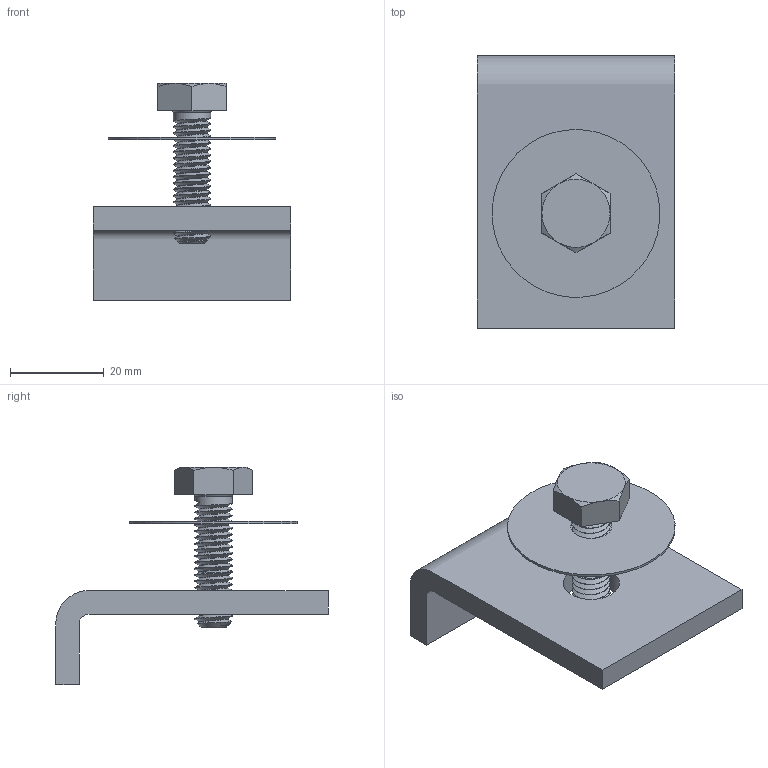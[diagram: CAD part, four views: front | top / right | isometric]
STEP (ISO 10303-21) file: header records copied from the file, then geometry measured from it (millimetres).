
FILE_DESCRIPTION(/* description */ (''),/* implementation_level */ '2;1');
FILE_NAME(/* name */ 'PIM',/* time_stamp */ '2025-03-13T21:00:20+01:00',/* author */ (''),/* organization */ (''),/* preprocessor_version */ 'ST-DEVELOPER v16.5',/* originating_system */ '',/* authorisation */ '');
FILE_SCHEMA (('CONFIG_CONTROL_DESIGN'));
Length unit declared in the file: millimetre
Products named in the file (1): Document
Bounding box: 42 x 58 x 46.24 mm (x, y, z)
Volume: 16927.9 mm3; surface area: 11269 mm2
Topology: 2 solids, 5 shells, 60 faces, 150 edges, 98 vertices
Faces by surface type: cylinder 24, bspline 20, plane 16
Full cylindrical faces by diameter (mm): 8 x19, 8.8 x1, 12 x1, 35.75 x1
Entity records: 8704 total; most frequent: CARTESIAN_POINT 7635, ORIENTED_EDGE 292, EDGE_CURVE 150, B_SPLINE_CURVE_WITH_KNOTS 105, VERTEX_POINT 98, EDGE_LOOP 65, ADVANCED_FACE 60, FACE_OUTER_BOUND 60
